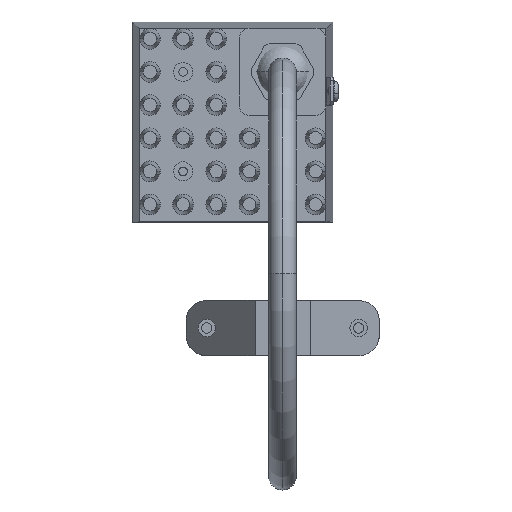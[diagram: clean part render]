
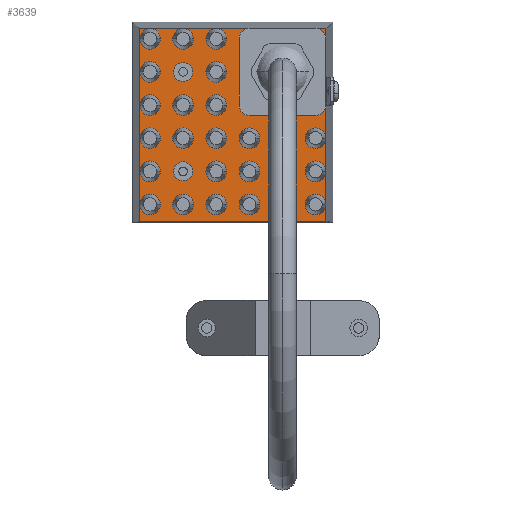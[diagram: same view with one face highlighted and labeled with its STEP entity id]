
A CAD part, top view. The second image highlights one B-rep face of the part: STEP entity #3639.
In plain terms, the highlighted planar face has unit normal (0, 0, 1).
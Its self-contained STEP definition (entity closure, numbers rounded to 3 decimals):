
#3639=ADVANCED_FACE('',(#6204),#6205,.T.);
#6204=FACE_OUTER_BOUND('',#9271,.T.);
#6205=PLANE('',#9272);
#9271=EDGE_LOOP('',(#14700,#14701,#14702,#14703));
#9272=AXIS2_PLACEMENT_3D('',#14704,#14705,#14706);
#14700=ORIENTED_EDGE('',*,*,#16902,.T.);
#14701=ORIENTED_EDGE('',*,*,#18524,.T.);
#14702=ORIENTED_EDGE('',*,*,#17873,.T.);
#14703=ORIENTED_EDGE('',*,*,#17770,.T.);
#14704=CARTESIAN_POINT('',(28.2,28.2,146.9));
#14705=DIRECTION('',(0.0,0.0,1.0));
#14706=DIRECTION('',(1.0,0.0,0.0));
#16902=EDGE_CURVE('',#21250,#21254,#21256,.T.);
#17770=EDGE_CURVE('',#22614,#21250,#22615,.T.);
#17873=EDGE_CURVE('',#22767,#22614,#22768,.T.);
#18524=EDGE_CURVE('',#21254,#22767,#23672,.T.);
#21250=VERTEX_POINT('',#29331);
#21254=VERTEX_POINT('',#29337);
#21256=LINE('',#29340,#29341);
#22614=VERTEX_POINT('',#31028);
#22615=LINE('',#31029,#31030);
#22767=VERTEX_POINT('',#31229);
#22768=LINE('',#31230,#31231);
#23672=LINE('',#32341,#32342);
#29331=CARTESIAN_POINT('',(1.2,55.2,146.9));
#29337=CARTESIAN_POINT('',(1.2,-0.8,146.9));
#29340=CARTESIAN_POINT('',(1.2,42.7,146.9));
#29341=VECTOR('',#33330,1.0);
#31028=CARTESIAN_POINT('',(55.2,55.2,146.9));
#31029=CARTESIAN_POINT('',(42.7,55.2,146.9));
#31030=VECTOR('',#34509,1.0);
#31229=CARTESIAN_POINT('',(55.2,-0.8,146.9));
#31230=CARTESIAN_POINT('',(55.2,13.7,146.9));
#31231=VECTOR('',#34647,1.0);
#32341=CARTESIAN_POINT('',(28.2,-0.8,146.9));
#32342=VECTOR('',#35416,1.0);
#33330=DIRECTION('',(0.,-1.0,0.0));
#34509=DIRECTION('',(-1.0,0.,0.0));
#34647=DIRECTION('',(0.,1.0,0.0));
#35416=DIRECTION('',(1.0,0.0,0.0));
